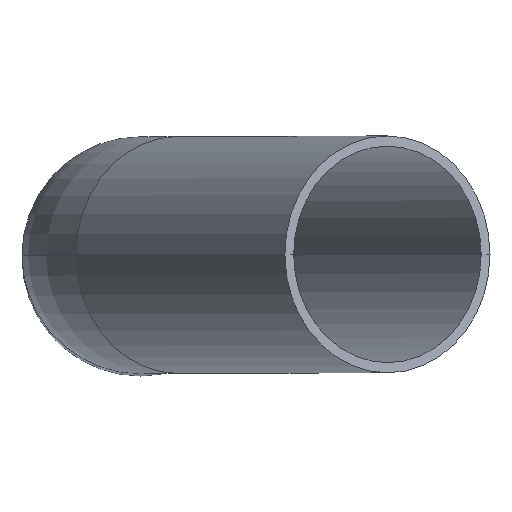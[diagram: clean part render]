
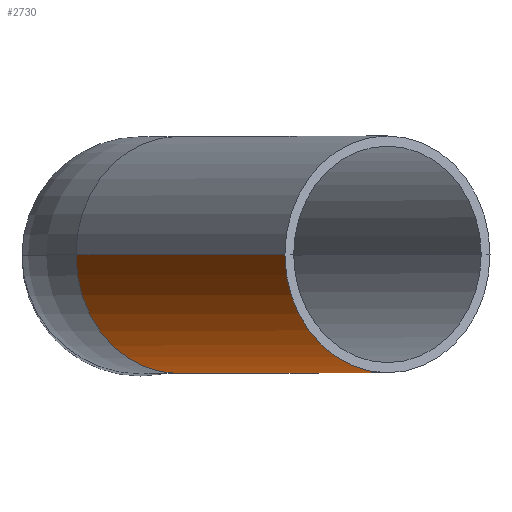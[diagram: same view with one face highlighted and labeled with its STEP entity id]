
A CAD part, top view. The second image highlights one B-rep face of the part: STEP entity #2730.
In plain terms, the highlighted cylindrical face has radius 17.5 mm (diameter 35 mm), a partial arc.
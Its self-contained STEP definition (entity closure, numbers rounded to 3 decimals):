
#1840=CARTESIAN_POINT('',(71.5,48.566,214.996));
#1850=VERTEX_POINT('',#1840);
#1940=CARTESIAN_POINT('',(41.189,48.566,232.496));
#1950=VERTEX_POINT('',#1940);
#1980=CARTESIAN_POINT('',(56.344,48.566,223.746));
#1990=DIRECTION('',(0.5,0.,0.866));
#2000=DIRECTION('',(0.866,0.,-0.5));
#2010=AXIS2_PLACEMENT_3D('',#1980,#1990,#2000);
#2020=CIRCLE('',#2010,17.5);
#2030=EDGE_CURVE('',#1950,#1850,#2020,.T.);
#2360=CARTESIAN_POINT('',(87.217,48.566,277.22));
#2370=DIRECTION('',(0.5,0.,0.866));
#2380=DIRECTION('',(0.866,0.,-0.5));
#2390=AXIS2_PLACEMENT_3D('',#2360,#2370,#2380);
#2400=CIRCLE('',#2390,17.5);
#2410=CARTESIAN_POINT('',(102.373,48.566,268.47));
#2420=VERTEX_POINT('',#2410);
#2430=CARTESIAN_POINT('',(72.062,48.566,285.97));
#2440=VERTEX_POINT('',#2430);
#2470=EDGE_CURVE('',#2440,#2420,#2400,.T.);
#2520=CARTESIAN_POINT('',(56.344,48.566,223.746));
#2530=DIRECTION('',(0.5,0.,0.866));
#2540=DIRECTION('',(0.866,0.,-0.5));
#2550=AXIS2_PLACEMENT_3D('',#2520,#2530,#2540);
#2560=CYLINDRICAL_SURFACE('',#2550,17.5);
#2570=CARTESIAN_POINT('',(71.5,48.566,214.996));
#2580=DIRECTION('',(0.5,0.,0.866));
#2590=VECTOR('',#2580,1.);
#2600=LINE('',#2570,#2590);
#2610=EDGE_CURVE('',#1850,#2420,#2600,.T.);
#2620=ORIENTED_EDGE('',*,*,#2610,.T.);
#2630=ORIENTED_EDGE('',*,*,#2030,.T.);
#2640=CARTESIAN_POINT('',(41.189,48.566,232.496));
#2650=DIRECTION('',(0.5,0.,0.866));
#2660=VECTOR('',#2650,1.);
#2670=LINE('',#2640,#2660);
#2680=EDGE_CURVE('',#1950,#2440,#2670,.T.);
#2690=ORIENTED_EDGE('',*,*,#2680,.F.);
#2700=ORIENTED_EDGE('',*,*,#2470,.F.);
#2710=EDGE_LOOP('',(#2700,#2690,#2630,#2620));
#2720=FACE_OUTER_BOUND('',#2710,.T.);
#2730=ADVANCED_FACE('',(#2720),#2560,.T.);
